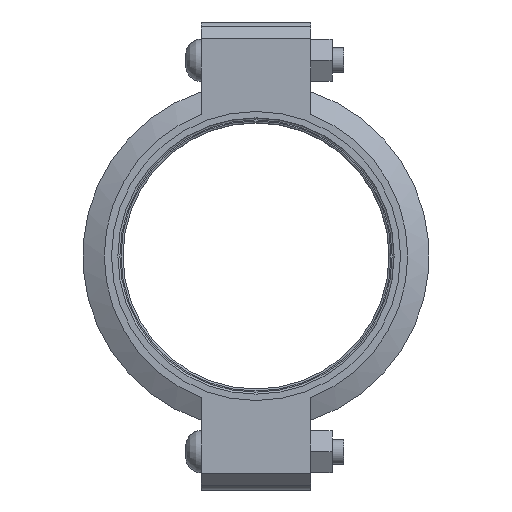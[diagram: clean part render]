
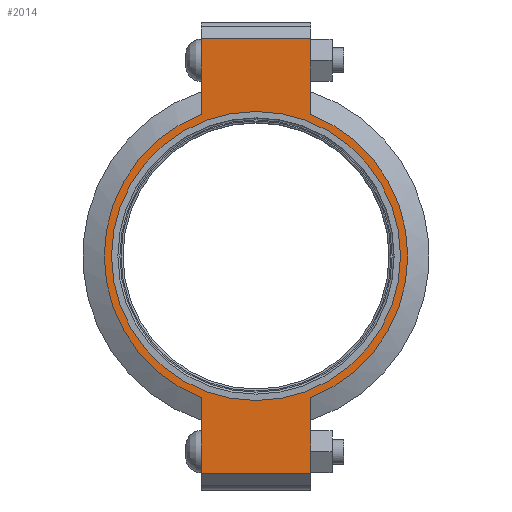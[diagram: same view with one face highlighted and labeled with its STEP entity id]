
A CAD part, left-side view. The second image highlights one B-rep face of the part: STEP entity #2014.
In plain terms, the highlighted planar face has unit normal (-1, 0, 0) as drawn and (0, 0, 1) by its records, which use the part's own axes.
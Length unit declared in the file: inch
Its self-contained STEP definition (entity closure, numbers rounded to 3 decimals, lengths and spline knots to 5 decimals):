
#176=LINE('',#3572,#273);
#184=LINE('',#3608,#281);
#191=LINE('',#3629,#288);
#200=LINE('',#3661,#297);
#201=LINE('',#3665,#298);
#202=LINE('',#3667,#299);
#273=VECTOR('',#2907,0.3937);
#281=VECTOR('',#2923,0.3937);
#288=VECTOR('',#2942,0.3937);
#297=VECTOR('',#2967,0.3937);
#298=VECTOR('',#2972,0.3937);
#299=VECTOR('',#2973,0.3937);
#356=FACE_BOUND('',#610,.T.);
#401=PLANE('',#2358);
#490=FACE_OUTER_BOUND('',#609,.T.);
#609=EDGE_LOOP('',(#1733,#1734,#1735,#1736,#1737,#1738,#1739,#1740));
#610=EDGE_LOOP('',(#1741));
#786=CIRCLE('',#2359,4.53);
#787=CIRCLE('',#2360,4.53);
#788=CIRCLE('',#2361,4.3125);
#954=VERTEX_POINT('',#3569);
#955=VERTEX_POINT('',#3571);
#966=VERTEX_POINT('',#3603);
#967=VERTEX_POINT('',#3607);
#974=VERTEX_POINT('',#3626);
#975=VERTEX_POINT('',#3628);
#985=VERTEX_POINT('',#3664);
#986=VERTEX_POINT('',#3666);
#987=VERTEX_POINT('',#3669);
#1203=EDGE_CURVE('',#955,#954,#176,.T.);
#1217=EDGE_CURVE('',#967,#966,#184,.T.);
#1227=EDGE_CURVE('',#975,#974,#191,.T.);
#1242=EDGE_CURVE('',#967,#954,#200,.T.);
#1243=EDGE_CURVE('',#966,#975,#786,.T.);
#1244=EDGE_CURVE('',#985,#974,#201,.T.);
#1245=EDGE_CURVE('',#985,#986,#202,.T.);
#1246=EDGE_CURVE('',#986,#955,#787,.T.);
#1247=EDGE_CURVE('',#987,#987,#788,.T.);
#1733=ORIENTED_EDGE('',*,*,#1242,.F.);
#1734=ORIENTED_EDGE('',*,*,#1217,.T.);
#1735=ORIENTED_EDGE('',*,*,#1243,.T.);
#1736=ORIENTED_EDGE('',*,*,#1227,.T.);
#1737=ORIENTED_EDGE('',*,*,#1244,.F.);
#1738=ORIENTED_EDGE('',*,*,#1245,.T.);
#1739=ORIENTED_EDGE('',*,*,#1246,.T.);
#1740=ORIENTED_EDGE('',*,*,#1203,.T.);
#1741=ORIENTED_EDGE('',*,*,#1247,.T.);
#2014=ADVANCED_FACE('',(#490,#356),#401,.T.);
#2358=AXIS2_PLACEMENT_3D('',#3662,#2968,#2969);
#2359=AXIS2_PLACEMENT_3D('',#3663,#2970,#2971);
#2360=AXIS2_PLACEMENT_3D('',#3668,#2974,#2975);
#2361=AXIS2_PLACEMENT_3D('',#3670,#2976,#2977);
#2907=DIRECTION('',(1.,0.,0.));
#2923=DIRECTION('',(-1.,0.,0.));
#2942=DIRECTION('',(-1.,0.,0.));
#2967=DIRECTION('',(0.,-1.,0.));
#2968=DIRECTION('center_axis',(0.,0.,1.));
#2969=DIRECTION('ref_axis',(-1.,0.,0.));
#2970=DIRECTION('center_axis',(0.,0.,1.));
#2971=DIRECTION('ref_axis',(1.,0.,0.));
#2972=DIRECTION('',(0.,1.,0.));
#2973=DIRECTION('',(1.,0.,0.));
#2974=DIRECTION('center_axis',(0.,0.,1.));
#2975=DIRECTION('ref_axis',(1.,0.,0.));
#2976=DIRECTION('center_axis',(0.,0.,-1.));
#2977=DIRECTION('ref_axis',(1.,0.,0.));
#3569=CARTESIAN_POINT('',(6.485,-1.63,1.16));
#3571=CARTESIAN_POINT('',(4.22658,-1.63,1.16));
#3572=CARTESIAN_POINT('',(6.985,-1.63,1.16));
#3603=CARTESIAN_POINT('',(4.22658,1.63,1.16));
#3607=CARTESIAN_POINT('',(6.485,1.63,1.16));
#3608=CARTESIAN_POINT('',(-6.985,1.63,1.16));
#3626=CARTESIAN_POINT('',(-6.485,1.63,1.16));
#3628=CARTESIAN_POINT('',(-4.22658,1.63,1.16));
#3629=CARTESIAN_POINT('',(-6.985,1.63,1.16));
#3661=CARTESIAN_POINT('',(6.485,-0.815,1.16));
#3662=CARTESIAN_POINT('Origin',(0.,0.,
1.16));
#3663=CARTESIAN_POINT('Origin',(0.,0.,1.16));
#3664=CARTESIAN_POINT('',(-6.485,-1.63,1.16));
#3665=CARTESIAN_POINT('',(-6.485,0.815,1.16));
#3666=CARTESIAN_POINT('',(-4.22658,-1.63,1.16));
#3667=CARTESIAN_POINT('',(6.985,-1.63,1.16));
#3668=CARTESIAN_POINT('Origin',(0.,0.,1.16));
#3669=CARTESIAN_POINT('',(-4.3125,0.,1.16));
#3670=CARTESIAN_POINT('Origin',(0.,0.,1.16));
